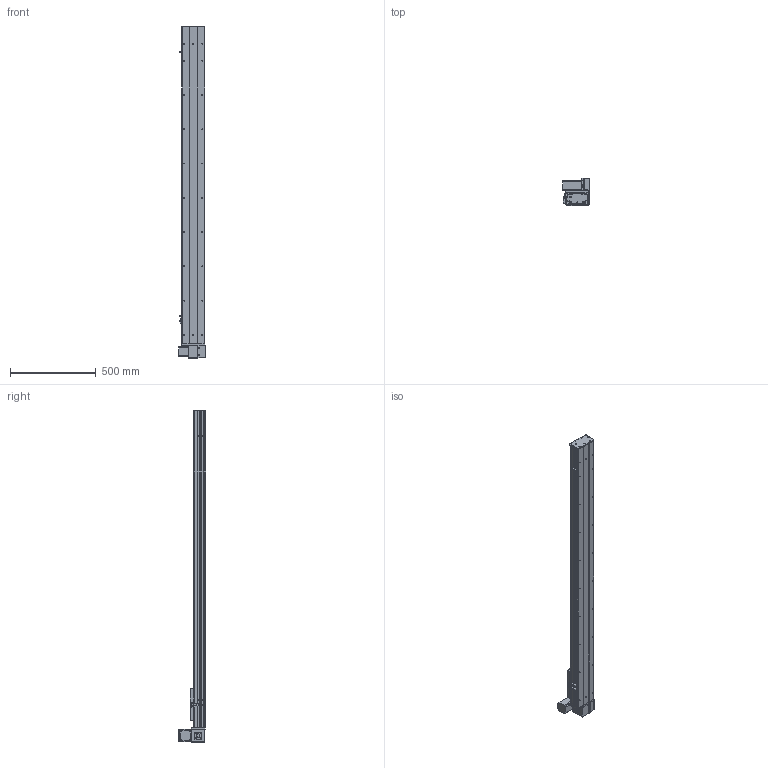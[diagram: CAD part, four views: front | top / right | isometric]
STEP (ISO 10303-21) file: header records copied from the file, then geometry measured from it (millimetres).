
FILE_DESCRIPTION (( 'STEP AP203' ), '1' );
FILE_NAME ('Y135CB-D90-S1550-UL-P400W.STEP', '2020-02-18T07:36:41', ( '微软用户' ), ( '微软中国' ), 'SwSTEP 2.0', 'SolidWorks 2017', '' );
FILE_SCHEMA (( 'CONFIG_CONTROL_DESIGN' ));
Length unit declared in the file: millimetre
Products named in the file (18): Y10B--々湍喘謫眊--666; 5CB --掛极耜裔啣-; Y135CB-D90-S1550-UL-P400W; C-詩湍揤踡え-陔; Y135CB-耜裔; 135CB--詩湍-CE; 135CB---遴掛极.-; Y100-135俋离換覜ん--; 35CB---喘謫眊楊擘啣; 5C--俋欶; Y135C-陔俋离換覜結え-; 0B-埴倛裔啣; C-雄赽釱--; 0B-源倛裔啣; Y10B-耜蚾蟀諉啣----; 0B-萇儂楊擘啣; 00B-俋欶BM--; san松下电机400不带刹车----
Assembly tree (21 placements, depth 2):
  Y135CB-D90-S1550-UL-P400W
    Y135CB-耜裔
    135CB---遴掛极.-
    35CB---喘謫眊楊擘啣
    0B-埴倛裔啣
    0B-源倛裔啣
    0B-萇儂楊擘啣
    san松下电机400不带刹车----
    5CB --掛极耜裔啣-  x2
    C-詩湍揤踡え-陔  x2
    135CB--詩湍-CE
    Y100-135俋离換覜ん--  x3
    Y135C-陔俋离換覜結え-
    5C--俋欶
    C-雄赽釱--
    Y10B-耜蚾蟀諉啣----
    00B-俋欶BM--
    Y10B--々湍喘謫眊--666
Bounding box: 157 x 158.7 x 1938 mm (x, y, z)
Volume: 5814696.9 mm3; surface area: 2289633.1 mm2
Topology: 21 solids, 21 shells, 957 faces, 2581 edges, 1710 vertices
Faces by surface type: cylinder 485, plane 456, cone 16
Entity records: 29955 total; most frequent: DIRECTION 4977, CARTESIAN_POINT 4944, ORIENTED_EDGE 4638, EDGE_CURVE 2319, AXIS2_PLACEMENT_3D 1819, VERTEX_POINT 1538, VECTOR 1339, LINE 1339
